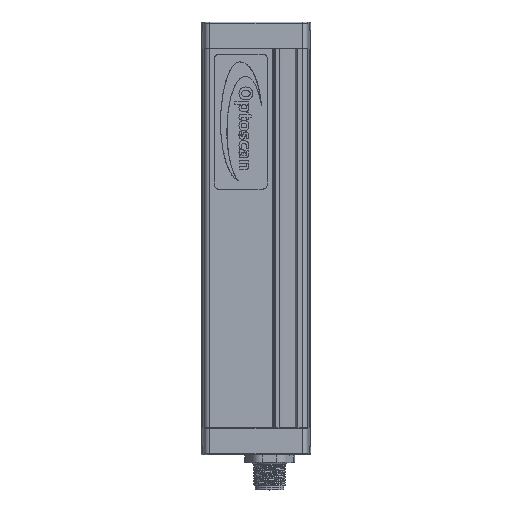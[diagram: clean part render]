
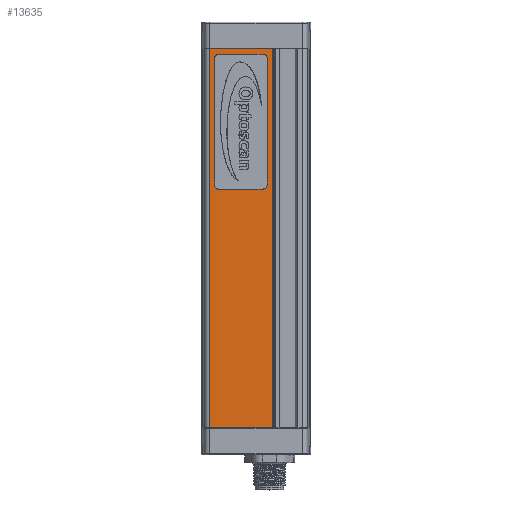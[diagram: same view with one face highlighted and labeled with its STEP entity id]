
A CAD part, top view. The second image highlights one B-rep face of the part: STEP entity #13635.
In plain terms, the highlighted planar face has unit normal (0, 0, 1).
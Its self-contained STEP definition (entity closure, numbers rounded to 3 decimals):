
#165=FACE_BOUND('',#2115,.T.);
#475=CIRCLE('',#14507,1.49);
#476=CIRCLE('',#14508,1.49);
#477=CIRCLE('',#14509,1.49);
#478=CIRCLE('',#14510,1.49);
#992=PLANE('',#14506);
#1357=FACE_OUTER_BOUND('',#2114,.T.);
#2114=EDGE_LOOP('',(#9142,#9143,#9144,#9145));
#2115=EDGE_LOOP('',(#9146,#9147,#9148,#9149,#9150,#9151,#9152,#9153));
#3341=LINE('',#20186,#4403);
#3353=LINE('',#20220,#4415);
#3367=LINE('',#20257,#4429);
#3368=LINE('',#20258,#4430);
#3369=LINE('',#20263,#4431);
#3370=LINE('',#20267,#4432);
#3371=LINE('',#20271,#4433);
#3372=LINE('',#20274,#4434);
#4403=VECTOR('',#16079,10.);
#4415=VECTOR('',#16103,10.);
#4429=VECTOR('',#16131,10.);
#4430=VECTOR('',#16132,10.);
#4431=VECTOR('',#16135,10.);
#4432=VECTOR('',#16138,10.);
#4433=VECTOR('',#16141,10.);
#4434=VECTOR('',#16144,10.);
#5562=VERTEX_POINT('',#20183);
#5563=VERTEX_POINT('',#20185);
#5578=VERTEX_POINT('',#20217);
#5579=VERTEX_POINT('',#20219);
#5596=VERTEX_POINT('',#20259);
#5597=VERTEX_POINT('',#20260);
#5598=VERTEX_POINT('',#20262);
#5599=VERTEX_POINT('',#20264);
#5600=VERTEX_POINT('',#20266);
#5601=VERTEX_POINT('',#20268);
#5602=VERTEX_POINT('',#20270);
#5603=VERTEX_POINT('',#20272);
#6916=EDGE_CURVE('',#5562,#5563,#3341,.T.);
#6932=EDGE_CURVE('',#5579,#5578,#3353,.T.);
#6950=EDGE_CURVE('',#5578,#5563,#3367,.T.);
#6951=EDGE_CURVE('',#5579,#5562,#3368,.T.);
#6952=EDGE_CURVE('',#5596,#5597,#475,.T.);
#6953=EDGE_CURVE('',#5598,#5596,#3369,.T.);
#6954=EDGE_CURVE('',#5599,#5598,#476,.T.);
#6955=EDGE_CURVE('',#5600,#5599,#3370,.T.);
#6956=EDGE_CURVE('',#5601,#5600,#477,.T.);
#6957=EDGE_CURVE('',#5602,#5601,#3371,.T.);
#6958=EDGE_CURVE('',#5603,#5602,#478,.T.);
#6959=EDGE_CURVE('',#5597,#5603,#3372,.T.);
#9142=ORIENTED_EDGE('',*,*,#6932,.T.);
#9143=ORIENTED_EDGE('',*,*,#6950,.T.);
#9144=ORIENTED_EDGE('',*,*,#6916,.F.);
#9145=ORIENTED_EDGE('',*,*,#6951,.F.);
#9146=ORIENTED_EDGE('',*,*,#6952,.F.);
#9147=ORIENTED_EDGE('',*,*,#6953,.F.);
#9148=ORIENTED_EDGE('',*,*,#6954,.F.);
#9149=ORIENTED_EDGE('',*,*,#6955,.F.);
#9150=ORIENTED_EDGE('',*,*,#6956,.F.);
#9151=ORIENTED_EDGE('',*,*,#6957,.F.);
#9152=ORIENTED_EDGE('',*,*,#6958,.F.);
#9153=ORIENTED_EDGE('',*,*,#6959,.F.);
#13635=ADVANCED_FACE('',(#1357,#165),#992,.T.);
#14506=AXIS2_PLACEMENT_3D('',#20256,#16129,#16130);
#14507=AXIS2_PLACEMENT_3D('',#20261,#16133,#16134);
#14508=AXIS2_PLACEMENT_3D('',#20265,#16136,#16137);
#14509=AXIS2_PLACEMENT_3D('',#20269,#16139,#16140);
#14510=AXIS2_PLACEMENT_3D('',#20273,#16142,#16143);
#16079=DIRECTION('',(1.,0.,0.));
#16103=DIRECTION('',(1.,0.,0.));
#16129=DIRECTION('center_axis',(0.,0.,
1.));
#16130=DIRECTION('ref_axis',(1.,0.,0.));
#16131=DIRECTION('',(0.,1.,0.));
#16132=DIRECTION('',(0.,1.,0.));
#16133=DIRECTION('center_axis',(0.,0.,
1.));
#16134=DIRECTION('ref_axis',(0.707,0.707,0.));
#16135=DIRECTION('',(0.,1.,0.));
#16136=DIRECTION('center_axis',(0.,0.,
1.));
#16137=DIRECTION('ref_axis',(0.707,-0.707,0.));
#16138=DIRECTION('',(1.,0.,0.));
#16139=DIRECTION('center_axis',(0.,0.,
1.));
#16140=DIRECTION('ref_axis',(-0.707,-0.707,0.));
#16141=DIRECTION('',(0.,-1.,0.));
#16142=DIRECTION('center_axis',(0.,0.,
1.));
#16143=DIRECTION('ref_axis',(-0.707,0.707,0.));
#16144=DIRECTION('',(-1.,0.,0.));
#20183=CARTESIAN_POINT('',(-12.565,140.,1.277));
#20185=CARTESIAN_POINT('',(10.736,140.,1.277));
#20186=CARTESIAN_POINT('',(-12.565,140.,1.277));
#20217=CARTESIAN_POINT('',(10.736,0.,1.277));
#20219=CARTESIAN_POINT('',(-12.565,0.,1.277));
#20220=CARTESIAN_POINT('',(-12.565,0.,1.277));
#20256=CARTESIAN_POINT('Origin',(-12.565,0.,
1.277));
#20257=CARTESIAN_POINT('',(10.736,0.,1.277));
#20258=CARTESIAN_POINT('',(-12.565,0.,1.277));
#20259=CARTESIAN_POINT('',(8.576,136.5,1.277));
#20260=CARTESIAN_POINT('',(7.086,137.99,1.277));
#20261=CARTESIAN_POINT('Origin',(7.086,136.5,1.277));
#20262=CARTESIAN_POINT('',(8.576,89.7,1.277));
#20263=CARTESIAN_POINT('',(8.576,101.4,1.277));
#20264=CARTESIAN_POINT('',(7.086,88.21,1.277));
#20265=CARTESIAN_POINT('Origin',(7.086,89.7,1.277));
#20266=CARTESIAN_POINT('',(-9.314,88.21,1.277));
#20267=CARTESIAN_POINT('',(-5.214,88.21,1.277));
#20268=CARTESIAN_POINT('',(-10.804,89.7,1.277));
#20269=CARTESIAN_POINT('Origin',(-9.314,89.7,1.277));
#20270=CARTESIAN_POINT('',(-10.804,136.5,1.277));
#20271=CARTESIAN_POINT('',(-10.804,124.8,1.277));
#20272=CARTESIAN_POINT('',(-9.314,137.99,1.277));
#20273=CARTESIAN_POINT('Origin',(-9.314,136.5,1.277));
#20274=CARTESIAN_POINT('',(2.986,137.99,1.277));
